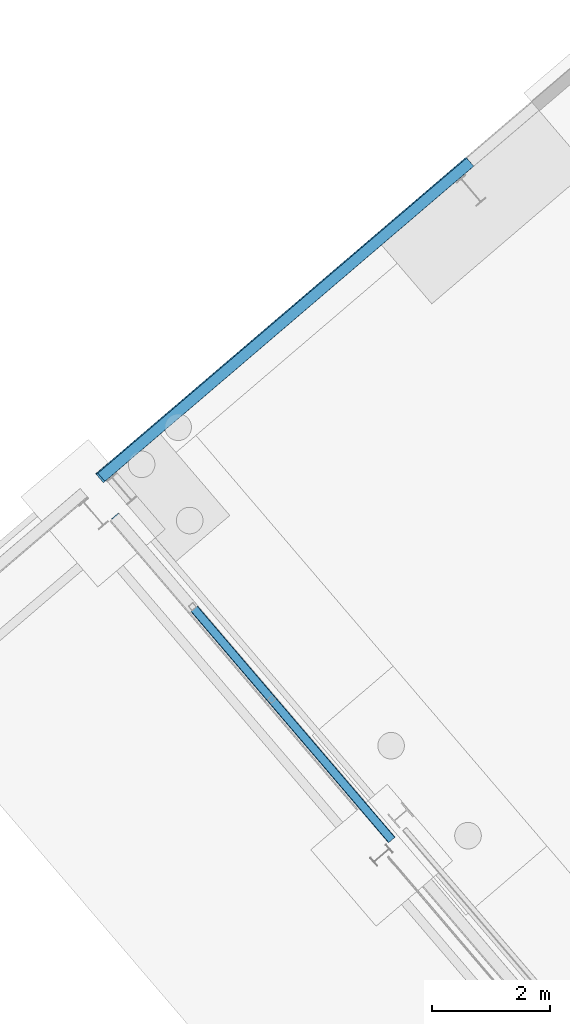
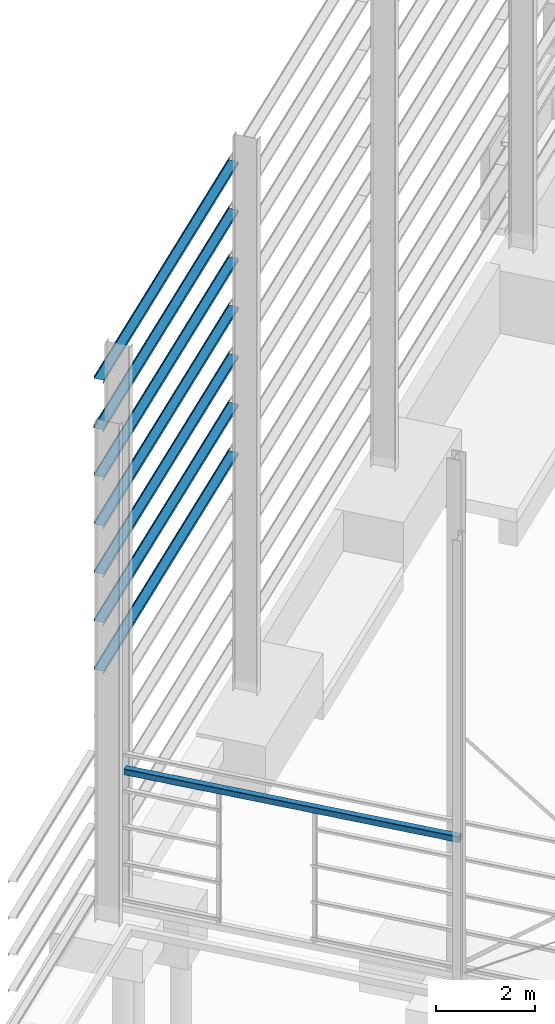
# One storey, part 15 of 41: 8 beams.
"""IFC2X3 building model written with IfcOpenShell, lengths in millimetres."""

from ifc_helpers import new_model, entity, si_unit, converted_unit, derived_unit, direction, frame, frame_2d, origin, place, context, subcontext, project, spatial, polyline, circle_curve, parameter, trimmed, segment, composite_curve, outline, extrude, material, type_object, element, save


model = new_model("IFC2X3")

# Units and contexts
model_context = context("Model", 3, precision=0.01, world=origin(), true_north=direction((6.123031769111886e-17, 1.0)))
body_context = subcontext(model_context, "Body", "Model", "MODEL_VIEW")
ifc_project = project(units=[si_unit("LENGTHUNIT", "METRE", prefix="MILLI"), si_unit("AREAUNIT", "SQUARE_METRE"), si_unit("VOLUMEUNIT", "CUBIC_METRE"), converted_unit("PLANEANGLEUNIT", "DEGREE", entity("IfcRatioMeasure", 0.017453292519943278), si_unit("PLANEANGLEUNIT", "RADIAN"), dimensions=[0, 0, 0, 0, 0, 0, 0]), si_unit("MASSUNIT", "GRAM", prefix="KILO"), derived_unit("MASSDENSITYUNIT", [(si_unit("MASSUNIT", "GRAM", prefix="KILO"), 1), (si_unit("LENGTHUNIT", "METRE"), -3)]), derived_unit("MOMENTOFINERTIAUNIT", [(si_unit("LENGTHUNIT", "METRE"), 4)]), si_unit("TIMEUNIT", "SECOND"), si_unit("FREQUENCYUNIT", "HERTZ"), si_unit("THERMODYNAMICTEMPERATUREUNIT", "DEGREE_CELSIUS"), derived_unit("THERMALTRANSMITTANCEUNIT", [(si_unit("MASSUNIT", "GRAM", prefix="KILO"), 1), (si_unit("THERMODYNAMICTEMPERATUREUNIT", "KELVIN"), -1), (si_unit("TIMEUNIT", "SECOND"), -3)]), derived_unit("VOLUMETRICFLOWRATEUNIT", [(si_unit("LENGTHUNIT", "METRE"), 3), (si_unit("TIMEUNIT", "SECOND"), -1)]), derived_unit("MASSFLOWRATEUNIT", [(si_unit("MASSUNIT", "GRAM", prefix="KILO"), 1), (si_unit("TIMEUNIT", "SECOND"), -1)]), derived_unit("ROTATIONALFREQUENCYUNIT", [(si_unit("TIMEUNIT", "SECOND"), -1)]), si_unit("ELECTRICCURRENTUNIT", "AMPERE"), si_unit("ELECTRICVOLTAGEUNIT", "VOLT"), si_unit("POWERUNIT", "WATT"), si_unit("FORCEUNIT", "NEWTON", prefix="KILO"), si_unit("ILLUMINANCEUNIT", "LUX"), si_unit("LUMINOUSFLUXUNIT", "LUMEN"), si_unit("LUMINOUSINTENSITYUNIT", "CANDELA"), derived_unit("USERDEFINED", [(si_unit("MASSUNIT", "GRAM", prefix="KILO"), -1), (si_unit("LENGTHUNIT", "METRE"), -2), (si_unit("TIMEUNIT", "SECOND"), 3), (si_unit("LUMINOUSFLUXUNIT", "LUMEN"), 1)]), derived_unit("SOUNDPOWERUNIT", [(si_unit("MASSUNIT", "GRAM", prefix="KILO"), 1), (si_unit("LENGTHUNIT", "METRE"), 2), (si_unit("TIMEUNIT", "SECOND"), -3)]), derived_unit("LINEARVELOCITYUNIT", [(si_unit("LENGTHUNIT", "METRE"), 1), (si_unit("TIMEUNIT", "SECOND"), -1)]), si_unit("PRESSUREUNIT", "PASCAL"), derived_unit("USERDEFINED", [(si_unit("LENGTHUNIT", "METRE"), -2), (si_unit("MASSUNIT", "GRAM", prefix="KILO"), 1), (si_unit("TIMEUNIT", "SECOND"), -2)]), derived_unit("LINEARFORCEUNIT", [(si_unit("MASSUNIT", "GRAM", prefix="KILO"), 1), (si_unit("LENGTHUNIT", "METRE"), 1), (si_unit("TIMEUNIT", "SECOND"), -2), (si_unit("LENGTHUNIT", "METRE"), -1)]), derived_unit("PLANARFORCEUNIT", [(si_unit("MASSUNIT", "GRAM", prefix="KILO"), 1), (si_unit("LENGTHUNIT", "METRE"), 1), (si_unit("TIMEUNIT", "SECOND"), -2), (si_unit("LENGTHUNIT", "METRE"), -2)])], contexts=[model_context])

# Site, building, storey
site_placement = place(None, frame((962.4174930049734, -6014.433753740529, 0.0), z_axis=(0.0, 0.0, 1.0), x_axis=(0.7601792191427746, 0.649713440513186, 0.0)))
site = spatial("IfcSite", under=ifc_project, at=site_placement, Name="Default", CompositionType="ELEMENT")
building_placement = place(site_placement, origin())
building = spatial("IfcBuilding", under=site, at=building_placement, CompositionType="ELEMENT")
storey_placement = place(building_placement, origin())
storey = spatial("IfcBuildingStorey", under=building, at=storey_placement, Name="Datum", CompositionType="ELEMENT", Elevation=0.0)

# Beams
ifc_material_1 = material(Name="Metal - Steel - 300 MPa")
beam_type_1 = type_object("IfcBeamType", Name="ADSK_AU_SHS-Square Hollow Sections (AS 1163_C350):150x150x6.0SHS", PredefinedType="NOTDEFINED")
beam_1_placement = place(storey_placement, frame((154112.96020470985, 3073.571917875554, 3275.0), z_axis=(0.0, 0.0, 1.0), x_axis=(0.0, -1.0, 0.0)))
element("IfcBeam", 1, at=beam_1_placement, inside=storey, type_object=beam_type_1, material=ifc_material_1, Name="ADSK_AU_SHS-Square Hollow Sections (AS 1163_C350):150x150x6.0SHS", ObjectType="ADSK_AU_SHS-Square Hollow Sections (AS 1163_C350):150x150x6.0SHS", context=body_context, shape_type="SweptSolid", body=[
    extrude(outline(composite_curve([segment(polyline([(-60.0, -75.0), (60.0, -75.0)]), True, "CONTINUOUS"), segment(trimmed(circle_curve(frame_2d((60.0, -60.0), x_axis=(0.0, 1.0)), 15.0), [parameter(179.99999999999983)], [parameter(269.9999999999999)], True, "PARAMETER"), True, "CONTINUOUS"), segment(polyline([(75.0, -60.0), (75.0, 60.0)]), True, "CONTINUOUS"), segment(trimmed(circle_curve(frame_2d((60.0, 60.0), x_axis=(0.0, 1.0)), 15.0), [parameter(270.00000000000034)], [parameter(3.5622212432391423e-13)], True, "PARAMETER"), True, "CONTINUOUS"), segment(polyline([(60.0, 75.0), (-60.0, 75.0)]), True, "CONTINUOUS"), segment(trimmed(circle_curve(frame_2d((-60.0, 60.0), x_axis=(0.0, 1.0)), 15.0), [parameter(5.088887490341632e-14)], [parameter(90.00000000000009)], True, "PARAMETER"), True, "CONTINUOUS"), segment(polyline([(-75.0, 60.0), (-75.0, -60.0)]), True, "CONTINUOUS"), segment(trimmed(circle_curve(frame_2d((-60.0, -60.0), x_axis=(0.0, 1.0)), 15.0), [parameter(90.00000000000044)], [parameter(180.00000000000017)], True, "PARAMETER"), True, "CONTINUOUS")], self_intersect=False), holes=[composite_curve([segment(trimmed(circle_curve(frame_2d((-60.0, 60.0), x_axis=(0.0, 1.0)), 9.0), [parameter(359.99999999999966)], [parameter(89.99999999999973)], True, "PARAMETER"), False, "CONTINUOUS"), segment(polyline([(-60.0, 69.0), (60.0, 69.0)]), True, "CONTINUOUS"), segment(trimmed(circle_curve(frame_2d((60.0, 60.0), x_axis=(0.0, 1.0)), 9.0), [parameter(269.9999999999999)], [parameter(5.088887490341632e-14)], True, "PARAMETER"), False, "CONTINUOUS"), segment(polyline([(69.0, 60.0), (69.0, -60.0)]), True, "CONTINUOUS"), segment(trimmed(circle_curve(frame_2d((60.0, -60.0), x_axis=(0.0, 1.0)), 9.0), [parameter(179.9999999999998)], [parameter(269.99999999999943)], True, "PARAMETER"), False, "CONTINUOUS"), segment(polyline([(60.0, -69.0), (-60.0, -69.0)]), True, "CONTINUOUS"), segment(trimmed(circle_curve(frame_2d((-60.0, -60.0), x_axis=(0.0, 1.0)), 9.0), [parameter(90.00000000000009)], [parameter(179.99999999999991)], True, "PARAMETER"), False, "CONTINUOUS"), segment(polyline([(-69.0, -60.0), (-69.0, 60.0)]), True, "CONTINUOUS")], self_intersect=False)]), frame((-43.94999999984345, 75.0, 0.0), z_axis=(1.0, 0.0, 0.0), x_axis=(0.0, 1.0, 0.0)), (0.0, 0.0, 1.0), 7203.949999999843),
])
ifc_material_2 = material(Name="Metal - Steel - 345 MPa")
beam_type_2 = type_object("IfcBeamType", Name="ADSK_AU_Light Gauge-Zeds:Z20012", PredefinedType="NOTDEFINED")
beam_2_placement = place(building_placement, frame((154438.96020470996, 3872.0719178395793, 12627.499999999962)))
element("IfcBeam", 2, at=beam_2_placement, inside=storey, type_object=beam_type_2, material=ifc_material_2, Name="ADSK_AU_Light Gauge-Zeds:Z20012", ObjectType="ADSK_AU_Light Gauge-Zeds:Z20012", context=body_context, shape_type="SweptSolid", body=[
    extrude(outline(composite_curve([segment(polyline([(-1.240000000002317, -101.5000000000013), (68.35999999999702, -101.5000000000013)]), True, "CONTINUOUS"), segment(trimmed(circle_curve(frame_2d((68.35999999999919, -98.30000000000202), x_axis=(0.0, -1.0)), 3.199999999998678), [parameter(0.0)], [parameter(90.00000000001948)], True, "PARAMETER"), True, "CONTINUOUS"), segment(polyline([(71.55999999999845, -98.30000000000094), (71.55999999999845, -82.0)]), True, "CONTINUOUS"), segment(polyline([(71.55999999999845, -82.0), (70.35999999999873, -82.0)]), True, "CONTINUOUS"), segment(polyline([(70.35999999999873, -82.0), (70.35999999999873, -98.30000000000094)]), True, "CONTINUOUS"), segment(trimmed(circle_curve(frame_2d((68.35999999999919, -98.30000000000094), x_axis=(1.0, 0.0)), 1.999999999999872), [parameter(269.9999999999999)], [parameter(0.0)], True, "PARAMETER"), False, "CONTINUOUS"), segment(polyline([(68.35999999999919, -100.30000000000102), (-1.2400000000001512, -100.30000000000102)]), True, "CONTINUOUS"), segment(trimmed(circle_curve(frame_2d((-1.240000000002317, -98.30000000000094), x_axis=(0.0, -1.0)), 1.999999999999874), [parameter(269.9999999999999)], [parameter(0.0)], True, "PARAMETER"), False, "CONTINUOUS"), segment(polyline([(-3.240000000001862, -98.30000000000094), (-3.240000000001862, 98.29999999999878)]), True, "CONTINUOUS"), segment(trimmed(circle_curve(frame_2d((-6.440000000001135, 98.29999999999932), x_axis=(1.0, 0.0)), 3.199999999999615), [parameter(0.0)], [parameter(90.00000000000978)], True, "PARAMETER"), True, "CONTINUOUS"), segment(polyline([(-6.440000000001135, 101.49999999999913), (-63.24000000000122, 101.49999999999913)]), True, "CONTINUOUS"), segment(trimmed(circle_curve(frame_2d((-63.24000000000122, 98.29999999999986), x_axis=(0.0, 1.0)), 3.199999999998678), [parameter(0.0)], [parameter(90.00000000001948)], True, "PARAMETER"), True, "CONTINUOUS"), segment(polyline([(-66.44000000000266, 98.29999999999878), (-66.44000000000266, 82.0)]), True, "CONTINUOUS"), segment(polyline([(-66.44000000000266, 82.0), (-65.24000000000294, 82.0)]), True, "CONTINUOUS"), segment(polyline([(-65.24000000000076, 82.0), (-65.24000000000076, 98.29999999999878)]), True, "CONTINUOUS"), segment(trimmed(circle_curve(frame_2d((-63.24000000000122, 98.29999999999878), x_axis=(-1.0, 0.0)), 1.9999999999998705), [parameter(269.9999999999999)], [parameter(0.0)], True, "PARAMETER"), False, "CONTINUOUS"), segment(polyline([(-63.24000000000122, 100.29999999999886), (-6.440000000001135, 100.29999999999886)]), True, "CONTINUOUS"), segment(trimmed(circle_curve(frame_2d((-6.440000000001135, 98.29999999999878), x_axis=(0.0, 1.0)), 1.999999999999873), [parameter(269.9999999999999)], [parameter(0.0)], True, "PARAMETER"), False, "CONTINUOUS"), segment(polyline([(-4.440000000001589, 98.29999999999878), (-4.440000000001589, -98.30000000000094)]), True, "CONTINUOUS"), segment(trimmed(circle_curve(frame_2d((-1.240000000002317, -98.30000000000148), x_axis=(-1.0, 0.0)), 3.1999999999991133), [parameter(0.0)], [parameter(90.00000000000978)], True, "PARAMETER"), True, "CONTINUOUS")], self_intersect=False)), frame((0.32499999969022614, -101.50000000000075, -4.440000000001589), z_axis=(1.0, 0.0, 0.0), x_axis=(0.0, 0.0, -1.0)), (0.0, 0.0, 1.0), 8199.000000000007),
])
beam_3_placement = place(building_placement, frame((154398.61020470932, 3872.0719178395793, 11427.499999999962)))
element("IfcBeam", 3, at=beam_3_placement, inside=storey, type_object=beam_type_2, material=ifc_material_2, Name="ADSK_AU_Light Gauge-Zeds:Z20012", ObjectType="ADSK_AU_Light Gauge-Zeds:Z20012", context=body_context, shape_type="SweptSolid", body=[
    extrude(outline(composite_curve([segment(polyline([(-1.240000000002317, -101.5000000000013), (68.35999999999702, -101.5000000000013)]), True, "CONTINUOUS"), segment(trimmed(circle_curve(frame_2d((68.35999999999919, -98.30000000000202), x_axis=(0.0, -1.0)), 3.199999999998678), [parameter(0.0)], [parameter(90.00000000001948)], True, "PARAMETER"), True, "CONTINUOUS"), segment(polyline([(71.55999999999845, -98.30000000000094), (71.55999999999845, -82.0)]), True, "CONTINUOUS"), segment(polyline([(71.55999999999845, -82.0), (70.35999999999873, -82.0)]), True, "CONTINUOUS"), segment(polyline([(70.35999999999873, -82.0), (70.35999999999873, -98.30000000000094)]), True, "CONTINUOUS"), segment(trimmed(circle_curve(frame_2d((68.35999999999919, -98.30000000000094), x_axis=(1.0, 0.0)), 1.999999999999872), [parameter(269.9999999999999)], [parameter(0.0)], True, "PARAMETER"), False, "CONTINUOUS"), segment(polyline([(68.35999999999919, -100.30000000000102), (-1.2400000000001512, -100.30000000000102)]), True, "CONTINUOUS"), segment(trimmed(circle_curve(frame_2d((-1.240000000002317, -98.30000000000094), x_axis=(0.0, -1.0)), 1.999999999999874), [parameter(269.9999999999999)], [parameter(0.0)], True, "PARAMETER"), False, "CONTINUOUS"), segment(polyline([(-3.240000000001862, -98.30000000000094), (-3.240000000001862, 98.29999999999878)]), True, "CONTINUOUS"), segment(trimmed(circle_curve(frame_2d((-6.440000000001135, 98.29999999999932), x_axis=(1.0, 0.0)), 3.199999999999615), [parameter(0.0)], [parameter(90.00000000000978)], True, "PARAMETER"), True, "CONTINUOUS"), segment(polyline([(-6.440000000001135, 101.49999999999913), (-63.24000000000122, 101.49999999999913)]), True, "CONTINUOUS"), segment(trimmed(circle_curve(frame_2d((-63.24000000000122, 98.29999999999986), x_axis=(0.0, 1.0)), 3.199999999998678), [parameter(0.0)], [parameter(90.00000000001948)], True, "PARAMETER"), True, "CONTINUOUS"), segment(polyline([(-66.44000000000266, 98.29999999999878), (-66.44000000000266, 82.0)]), True, "CONTINUOUS"), segment(polyline([(-66.44000000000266, 82.0), (-65.24000000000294, 82.0)]), True, "CONTINUOUS"), segment(polyline([(-65.24000000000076, 82.0), (-65.24000000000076, 98.29999999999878)]), True, "CONTINUOUS"), segment(trimmed(circle_curve(frame_2d((-63.24000000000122, 98.29999999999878), x_axis=(-1.0, 0.0)), 1.9999999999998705), [parameter(269.9999999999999)], [parameter(0.0)], True, "PARAMETER"), False, "CONTINUOUS"), segment(polyline([(-63.24000000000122, 100.29999999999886), (-6.440000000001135, 100.29999999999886)]), True, "CONTINUOUS"), segment(trimmed(circle_curve(frame_2d((-6.440000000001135, 98.29999999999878), x_axis=(0.0, 1.0)), 1.999999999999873), [parameter(269.9999999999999)], [parameter(0.0)], True, "PARAMETER"), False, "CONTINUOUS"), segment(polyline([(-4.440000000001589, 98.29999999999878), (-4.440000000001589, -98.30000000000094)]), True, "CONTINUOUS"), segment(trimmed(circle_curve(frame_2d((-1.240000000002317, -98.30000000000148), x_axis=(-1.0, 0.0)), 3.1999999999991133), [parameter(0.0)], [parameter(90.00000000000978)], True, "PARAMETER"), True, "CONTINUOUS")], self_intersect=False)), frame((6.44999999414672, -101.50000000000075, -4.440000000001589), z_axis=(1.0, 0.0, 0.0), x_axis=(0.0, 0.0, -1.0)), (0.0, 0.0, 1.0), 8233.550000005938),
])
beam_4_placement = place(building_placement, frame((154438.96020470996, 3872.0719178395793, 10227.499999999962)))
element("IfcBeam", 4, at=beam_4_placement, inside=storey, type_object=beam_type_2, material=ifc_material_2, Name="ADSK_AU_Light Gauge-Zeds:Z20012", ObjectType="ADSK_AU_Light Gauge-Zeds:Z20012", context=body_context, shape_type="SweptSolid", body=[
    extrude(outline(composite_curve([segment(polyline([(-1.240000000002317, -101.5000000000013), (68.35999999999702, -101.5000000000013)]), True, "CONTINUOUS"), segment(trimmed(circle_curve(frame_2d((68.35999999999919, -98.30000000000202), x_axis=(0.0, -1.0)), 3.199999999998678), [parameter(0.0)], [parameter(90.00000000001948)], True, "PARAMETER"), True, "CONTINUOUS"), segment(polyline([(71.55999999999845, -98.30000000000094), (71.55999999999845, -82.0)]), True, "CONTINUOUS"), segment(polyline([(71.55999999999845, -82.0), (70.35999999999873, -82.0)]), True, "CONTINUOUS"), segment(polyline([(70.35999999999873, -82.0), (70.35999999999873, -98.30000000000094)]), True, "CONTINUOUS"), segment(trimmed(circle_curve(frame_2d((68.35999999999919, -98.30000000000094), x_axis=(1.0, 0.0)), 1.999999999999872), [parameter(269.9999999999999)], [parameter(0.0)], True, "PARAMETER"), False, "CONTINUOUS"), segment(polyline([(68.35999999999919, -100.30000000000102), (-1.2400000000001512, -100.30000000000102)]), True, "CONTINUOUS"), segment(trimmed(circle_curve(frame_2d((-1.240000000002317, -98.30000000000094), x_axis=(0.0, -1.0)), 1.999999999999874), [parameter(269.9999999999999)], [parameter(0.0)], True, "PARAMETER"), False, "CONTINUOUS"), segment(polyline([(-3.240000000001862, -98.30000000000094), (-3.240000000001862, 98.29999999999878)]), True, "CONTINUOUS"), segment(trimmed(circle_curve(frame_2d((-6.440000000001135, 98.29999999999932), x_axis=(1.0, 0.0)), 3.199999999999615), [parameter(0.0)], [parameter(90.00000000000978)], True, "PARAMETER"), True, "CONTINUOUS"), segment(polyline([(-6.440000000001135, 101.49999999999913), (-63.24000000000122, 101.49999999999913)]), True, "CONTINUOUS"), segment(trimmed(circle_curve(frame_2d((-63.24000000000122, 98.29999999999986), x_axis=(0.0, 1.0)), 3.199999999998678), [parameter(0.0)], [parameter(90.00000000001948)], True, "PARAMETER"), True, "CONTINUOUS"), segment(polyline([(-66.44000000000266, 98.29999999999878), (-66.44000000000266, 82.0)]), True, "CONTINUOUS"), segment(polyline([(-66.44000000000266, 82.0), (-65.24000000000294, 82.0)]), True, "CONTINUOUS"), segment(polyline([(-65.24000000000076, 82.0), (-65.24000000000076, 98.29999999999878)]), True, "CONTINUOUS"), segment(trimmed(circle_curve(frame_2d((-63.24000000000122, 98.29999999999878), x_axis=(-1.0, 0.0)), 1.9999999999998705), [parameter(269.9999999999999)], [parameter(0.0)], True, "PARAMETER"), False, "CONTINUOUS"), segment(polyline([(-63.24000000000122, 100.29999999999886), (-6.440000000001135, 100.29999999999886)]), True, "CONTINUOUS"), segment(trimmed(circle_curve(frame_2d((-6.440000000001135, 98.29999999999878), x_axis=(0.0, 1.0)), 1.999999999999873), [parameter(269.9999999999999)], [parameter(0.0)], True, "PARAMETER"), False, "CONTINUOUS"), segment(polyline([(-4.440000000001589, 98.29999999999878), (-4.440000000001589, -98.30000000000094)]), True, "CONTINUOUS"), segment(trimmed(circle_curve(frame_2d((-1.240000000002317, -98.30000000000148), x_axis=(-1.0, 0.0)), 3.1999999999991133), [parameter(0.0)], [parameter(90.00000000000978)], True, "PARAMETER"), True, "CONTINUOUS")], self_intersect=False)), frame((0.32499999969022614, -101.50000000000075, -4.440000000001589), z_axis=(1.0, 0.0, 0.0), x_axis=(0.0, 0.0, -1.0)), (0.0, 0.0, 1.0), 8199.000000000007),
])
beam_5_placement = place(building_placement, frame((154438.96020470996, 3872.0719178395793, 9027.499999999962)))
element("IfcBeam", 5, at=beam_5_placement, inside=storey, type_object=beam_type_2, material=ifc_material_2, Name="ADSK_AU_Light Gauge-Zeds:Z20012", ObjectType="ADSK_AU_Light Gauge-Zeds:Z20012", context=body_context, shape_type="SweptSolid", body=[
    extrude(outline(composite_curve([segment(polyline([(-1.2399999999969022, -101.5000000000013), (68.36000000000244, -101.5000000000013)]), True, "CONTINUOUS"), segment(trimmed(circle_curve(frame_2d((68.36000000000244, -98.3000000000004), x_axis=(0.0, -1.0)), 3.2000000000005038), [parameter(0.0)], [parameter(89.9999999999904)], True, "PARAMETER"), True, "CONTINUOUS"), segment(polyline([(71.56000000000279, -98.30000000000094), (71.56000000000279, -82.0)]), True, "CONTINUOUS"), segment(polyline([(71.56000000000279, -82.0), (70.36000000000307, -82.0)]), True, "CONTINUOUS"), segment(polyline([(70.36000000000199, -82.0), (70.36000000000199, -98.30000000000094)]), True, "CONTINUOUS"), segment(trimmed(circle_curve(frame_2d((68.36000000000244, -98.30000000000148), x_axis=(1.0, 0.0)), 1.9999999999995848), [parameter(269.99999999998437)], [parameter(0.0)], True, "PARAMETER"), False, "CONTINUOUS"), segment(polyline([(68.36000000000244, -100.30000000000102), (-1.2399999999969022, -100.30000000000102)]), True, "CONTINUOUS"), segment(trimmed(circle_curve(frame_2d((-1.2399999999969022, -98.30000000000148), x_axis=(0.0, -1.0)), 1.999999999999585), [parameter(269.99999999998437)], [parameter(0.0)], True, "PARAMETER"), False, "CONTINUOUS"), segment(polyline([(-3.23999999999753, -98.30000000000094), (-3.23999999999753, 98.29999999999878)]), True, "CONTINUOUS"), segment(trimmed(circle_curve(frame_2d((-6.439999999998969, 98.2999999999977), x_axis=(1.0, 0.0)), 3.2000000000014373), [parameter(0.0)], [parameter(89.99999999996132)], True, "PARAMETER"), True, "CONTINUOUS"), segment(polyline([(-6.439999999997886, 101.49999999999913), (-63.23999999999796, 101.49999999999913)]), True, "CONTINUOUS"), segment(trimmed(circle_curve(frame_2d((-63.23999999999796, 98.29999999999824), x_axis=(0.0, 1.0)), 3.2000000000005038), [parameter(0.0)], [parameter(89.9999999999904)], True, "PARAMETER"), True, "CONTINUOUS"), segment(polyline([(-66.43999999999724, 98.29999999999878), (-66.43999999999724, 82.0)]), True, "CONTINUOUS"), segment(polyline([(-66.43999999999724, 82.0), (-65.23999999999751, 82.0)]), True, "CONTINUOUS"), segment(polyline([(-65.23999999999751, 82.0), (-65.23999999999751, 98.29999999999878)]), True, "CONTINUOUS"), segment(trimmed(circle_curve(frame_2d((-63.23999999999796, 98.29999999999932), x_axis=(-1.0, 0.0)), 1.9999999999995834), [parameter(269.99999999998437)], [parameter(0.0)], True, "PARAMETER"), False, "CONTINUOUS"), segment(polyline([(-63.23999999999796, 100.29999999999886), (-6.439999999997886, 100.29999999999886)]), True, "CONTINUOUS"), segment(trimmed(circle_curve(frame_2d((-6.439999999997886, 98.29999999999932), x_axis=(0.0, 1.0)), 1.9999999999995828), [parameter(269.99999999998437)], [parameter(0.0)], True, "PARAMETER"), False, "CONTINUOUS"), segment(polyline([(-4.439999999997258, 98.29999999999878), (-4.439999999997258, -98.30000000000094)]), True, "CONTINUOUS"), segment(trimmed(circle_curve(frame_2d((-1.2399999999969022, -98.29999999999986), x_axis=(-1.0, 0.0)), 3.2000000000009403), [parameter(0.0)], [parameter(89.9999999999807)], True, "PARAMETER"), True, "CONTINUOUS")], self_intersect=False)), frame((0.32499999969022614, -101.50000000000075, -4.439999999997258), z_axis=(1.0, 0.0, 0.0), x_axis=(0.0, 0.0, -1.0)), (0.0, 0.0, 1.0), 8199.000000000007),
])
beam_6_placement = place(building_placement, frame((154438.96020470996, 3872.0719178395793, 7827.499999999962)))
element("IfcBeam", 6, at=beam_6_placement, inside=storey, type_object=beam_type_2, material=ifc_material_2, Name="ADSK_AU_Light Gauge-Zeds:Z20012", ObjectType="ADSK_AU_Light Gauge-Zeds:Z20012", context=body_context, shape_type="SweptSolid", body=[
    extrude(outline(composite_curve([segment(polyline([(-1.2399999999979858, -101.5000000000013), (68.36000000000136, -101.5000000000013)]), True, "CONTINUOUS"), segment(trimmed(circle_curve(frame_2d((68.36000000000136, -98.3000000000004), x_axis=(0.0, -1.0)), 3.2000000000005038), [parameter(0.0)], [parameter(89.9999999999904)], True, "PARAMETER"), True, "CONTINUOUS"), segment(polyline([(71.56000000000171, -98.30000000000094), (71.56000000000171, -82.0)]), True, "CONTINUOUS"), segment(polyline([(71.56000000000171, -82.0), (70.36000000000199, -82.0)]), True, "CONTINUOUS"), segment(polyline([(70.36000000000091, -82.0), (70.36000000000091, -98.30000000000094)]), True, "CONTINUOUS"), segment(trimmed(circle_curve(frame_2d((68.36000000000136, -98.30000000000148), x_axis=(1.0, 0.0)), 1.9999999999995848), [parameter(269.99999999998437)], [parameter(0.0)], True, "PARAMETER"), False, "CONTINUOUS"), segment(polyline([(68.36000000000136, -100.30000000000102), (-1.2399999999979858, -100.30000000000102)]), True, "CONTINUOUS"), segment(trimmed(circle_curve(frame_2d((-1.2399999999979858, -98.30000000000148), x_axis=(0.0, -1.0)), 1.999999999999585), [parameter(269.99999999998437)], [parameter(0.0)], True, "PARAMETER"), False, "CONTINUOUS"), segment(polyline([(-3.2399999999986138, -98.30000000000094), (-3.2399999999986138, 98.29999999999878)]), True, "CONTINUOUS"), segment(trimmed(circle_curve(frame_2d((-6.440000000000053, 98.2999999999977), x_axis=(1.0, 0.0)), 3.2000000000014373), [parameter(0.0)], [parameter(89.99999999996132)], True, "PARAMETER"), True, "CONTINUOUS"), segment(polyline([(-6.439999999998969, 101.49999999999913), (-63.23999999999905, 101.49999999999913)]), True, "CONTINUOUS"), segment(trimmed(circle_curve(frame_2d((-63.23999999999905, 98.29999999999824), x_axis=(0.0, 1.0)), 3.2000000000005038), [parameter(0.0)], [parameter(89.9999999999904)], True, "PARAMETER"), True, "CONTINUOUS"), segment(polyline([(-66.43999999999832, 98.29999999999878), (-66.43999999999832, 82.0)]), True, "CONTINUOUS"), segment(polyline([(-66.43999999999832, 82.0), (-65.23999999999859, 82.0)]), True, "CONTINUOUS"), segment(polyline([(-65.23999999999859, 82.0), (-65.23999999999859, 98.29999999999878)]), True, "CONTINUOUS"), segment(trimmed(circle_curve(frame_2d((-63.23999999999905, 98.29999999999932), x_axis=(-1.0, 0.0)), 1.9999999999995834), [parameter(269.99999999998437)], [parameter(0.0)], True, "PARAMETER"), False, "CONTINUOUS"), segment(polyline([(-63.23999999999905, 100.29999999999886), (-6.439999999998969, 100.29999999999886)]), True, "CONTINUOUS"), segment(trimmed(circle_curve(frame_2d((-6.439999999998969, 98.29999999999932), x_axis=(0.0, 1.0)), 1.9999999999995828), [parameter(269.99999999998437)], [parameter(0.0)], True, "PARAMETER"), False, "CONTINUOUS"), segment(polyline([(-4.439999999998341, 98.29999999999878), (-4.439999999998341, -98.30000000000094)]), True, "CONTINUOUS"), segment(trimmed(circle_curve(frame_2d((-1.2399999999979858, -98.29999999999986), x_axis=(-1.0, 0.0)), 3.2000000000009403), [parameter(0.0)], [parameter(89.9999999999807)], True, "PARAMETER"), True, "CONTINUOUS")], self_intersect=False)), frame((0.32499999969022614, -101.50000000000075, -4.439999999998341), z_axis=(1.0, 0.0, 0.0), x_axis=(0.0, 0.0, -1.0)), (0.0, 0.0, 1.0), 8199.000000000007),
])
beam_7_placement = place(building_placement, frame((154438.96020470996, 3872.0719178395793, 6627.499999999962)))
element("IfcBeam", 7, at=beam_7_placement, inside=storey, type_object=beam_type_2, material=ifc_material_2, Name="ADSK_AU_Light Gauge-Zeds:Z20012", ObjectType="ADSK_AU_Light Gauge-Zeds:Z20012", context=body_context, shape_type="SweptSolid", body=[
    extrude(outline(composite_curve([segment(polyline([(-1.2400000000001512, -101.5000000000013), (68.35999999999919, -101.5000000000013)]), True, "CONTINUOUS"), segment(trimmed(circle_curve(frame_2d((68.35999999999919, -98.3000000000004), x_axis=(0.0, -1.0)), 3.2000000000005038), [parameter(0.0)], [parameter(89.9999999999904)], True, "PARAMETER"), True, "CONTINUOUS"), segment(polyline([(71.55999999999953, -98.30000000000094), (71.55999999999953, -82.0)]), True, "CONTINUOUS"), segment(polyline([(71.55999999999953, -82.0), (70.35999999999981, -82.0)]), True, "CONTINUOUS"), segment(polyline([(70.35999999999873, -82.0), (70.35999999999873, -98.30000000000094)]), True, "CONTINUOUS"), segment(trimmed(circle_curve(frame_2d((68.35999999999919, -98.30000000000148), x_axis=(1.0, 0.0)), 1.9999999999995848), [parameter(269.99999999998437)], [parameter(0.0)], True, "PARAMETER"), False, "CONTINUOUS"), segment(polyline([(68.35999999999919, -100.30000000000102), (-1.2400000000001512, -100.30000000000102)]), True, "CONTINUOUS"), segment(trimmed(circle_curve(frame_2d((-1.2400000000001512, -98.30000000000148), x_axis=(0.0, -1.0)), 1.999999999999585), [parameter(269.99999999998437)], [parameter(0.0)], True, "PARAMETER"), False, "CONTINUOUS"), segment(polyline([(-3.240000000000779, -98.30000000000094), (-3.240000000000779, 98.29999999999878)]), True, "CONTINUOUS"), segment(trimmed(circle_curve(frame_2d((-6.440000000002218, 98.2999999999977), x_axis=(1.0, 0.0)), 3.2000000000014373), [parameter(0.0)], [parameter(89.99999999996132)], True, "PARAMETER"), True, "CONTINUOUS"), segment(polyline([(-6.440000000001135, 101.49999999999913), (-63.24000000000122, 101.49999999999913)]), True, "CONTINUOUS"), segment(trimmed(circle_curve(frame_2d((-63.24000000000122, 98.29999999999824), x_axis=(0.0, 1.0)), 3.2000000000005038), [parameter(0.0)], [parameter(89.9999999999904)], True, "PARAMETER"), True, "CONTINUOUS"), segment(polyline([(-66.4400000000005, 98.29999999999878), (-66.4400000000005, 82.0)]), True, "CONTINUOUS"), segment(polyline([(-66.4400000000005, 82.0), (-65.24000000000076, 82.0)]), True, "CONTINUOUS"), segment(polyline([(-65.24000000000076, 82.0), (-65.24000000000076, 98.29999999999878)]), True, "CONTINUOUS"), segment(trimmed(circle_curve(frame_2d((-63.24000000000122, 98.29999999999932), x_axis=(-1.0, 0.0)), 1.9999999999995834), [parameter(269.99999999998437)], [parameter(0.0)], True, "PARAMETER"), False, "CONTINUOUS"), segment(polyline([(-63.24000000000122, 100.29999999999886), (-6.440000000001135, 100.29999999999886)]), True, "CONTINUOUS"), segment(trimmed(circle_curve(frame_2d((-6.440000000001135, 98.29999999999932), x_axis=(0.0, 1.0)), 1.9999999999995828), [parameter(269.99999999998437)], [parameter(0.0)], True, "PARAMETER"), False, "CONTINUOUS"), segment(polyline([(-4.440000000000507, 98.29999999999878), (-4.440000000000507, -98.30000000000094)]), True, "CONTINUOUS"), segment(trimmed(circle_curve(frame_2d((-1.2400000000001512, -98.29999999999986), x_axis=(-1.0, 0.0)), 3.2000000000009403), [parameter(0.0)], [parameter(89.9999999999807)], True, "PARAMETER"), True, "CONTINUOUS")], self_intersect=False)), frame((0.32499999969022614, -101.50000000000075, -4.440000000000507), z_axis=(1.0, 0.0, 0.0), x_axis=(0.0, 0.0, -1.0)), (0.0, 0.0, 1.0), 8199.000000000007),
])
beam_8_placement = place(building_placement, frame((154438.96020470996, 3872.0719178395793, 5427.499999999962)))
element("IfcBeam", 8, at=beam_8_placement, inside=storey, type_object=beam_type_2, material=ifc_material_2, Name="ADSK_AU_Light Gauge-Zeds:Z20012", ObjectType="ADSK_AU_Light Gauge-Zeds:Z20012", context=body_context, shape_type="SweptSolid", body=[
    extrude(outline(composite_curve([segment(polyline([(-1.2399999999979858, -101.5000000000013), (68.36000000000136, -101.5000000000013)]), True, "CONTINUOUS"), segment(trimmed(circle_curve(frame_2d((68.36000000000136, -98.3000000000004), x_axis=(0.0, -1.0)), 3.2000000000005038), [parameter(0.0)], [parameter(89.9999999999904)], True, "PARAMETER"), True, "CONTINUOUS"), segment(polyline([(71.56000000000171, -98.30000000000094), (71.56000000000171, -82.0)]), True, "CONTINUOUS"), segment(polyline([(71.56000000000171, -82.0), (70.36000000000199, -82.0)]), True, "CONTINUOUS"), segment(polyline([(70.36000000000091, -82.0), (70.36000000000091, -98.30000000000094)]), True, "CONTINUOUS"), segment(trimmed(circle_curve(frame_2d((68.36000000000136, -98.30000000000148), x_axis=(1.0, 0.0)), 1.9999999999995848), [parameter(269.99999999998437)], [parameter(0.0)], True, "PARAMETER"), False, "CONTINUOUS"), segment(polyline([(68.36000000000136, -100.30000000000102), (-1.2399999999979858, -100.30000000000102)]), True, "CONTINUOUS"), segment(trimmed(circle_curve(frame_2d((-1.2399999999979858, -98.30000000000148), x_axis=(0.0, -1.0)), 1.999999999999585), [parameter(269.99999999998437)], [parameter(0.0)], True, "PARAMETER"), False, "CONTINUOUS"), segment(polyline([(-3.2399999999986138, -98.30000000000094), (-3.2399999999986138, 98.29999999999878)]), True, "CONTINUOUS"), segment(trimmed(circle_curve(frame_2d((-6.440000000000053, 98.2999999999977), x_axis=(1.0, 0.0)), 3.2000000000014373), [parameter(0.0)], [parameter(89.99999999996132)], True, "PARAMETER"), True, "CONTINUOUS"), segment(polyline([(-6.439999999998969, 101.49999999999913), (-63.23999999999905, 101.49999999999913)]), True, "CONTINUOUS"), segment(trimmed(circle_curve(frame_2d((-63.23999999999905, 98.29999999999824), x_axis=(0.0, 1.0)), 3.2000000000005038), [parameter(0.0)], [parameter(89.9999999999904)], True, "PARAMETER"), True, "CONTINUOUS"), segment(polyline([(-66.43999999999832, 98.29999999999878), (-66.43999999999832, 82.0)]), True, "CONTINUOUS"), segment(polyline([(-66.43999999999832, 82.0), (-65.23999999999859, 82.0)]), True, "CONTINUOUS"), segment(polyline([(-65.23999999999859, 82.0), (-65.23999999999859, 98.29999999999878)]), True, "CONTINUOUS"), segment(trimmed(circle_curve(frame_2d((-63.23999999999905, 98.29999999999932), x_axis=(-1.0, 0.0)), 1.9999999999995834), [parameter(269.99999999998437)], [parameter(0.0)], True, "PARAMETER"), False, "CONTINUOUS"), segment(polyline([(-63.23999999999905, 100.29999999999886), (-6.439999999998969, 100.29999999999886)]), True, "CONTINUOUS"), segment(trimmed(circle_curve(frame_2d((-6.439999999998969, 98.29999999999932), x_axis=(0.0, 1.0)), 1.9999999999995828), [parameter(269.99999999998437)], [parameter(0.0)], True, "PARAMETER"), False, "CONTINUOUS"), segment(polyline([(-4.439999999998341, 98.29999999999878), (-4.439999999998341, -98.30000000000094)]), True, "CONTINUOUS"), segment(trimmed(circle_curve(frame_2d((-1.2399999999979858, -98.29999999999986), x_axis=(-1.0, 0.0)), 3.2000000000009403), [parameter(0.0)], [parameter(89.9999999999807)], True, "PARAMETER"), True, "CONTINUOUS")], self_intersect=False)), frame((0.32499999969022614, -101.50000000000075, -4.439999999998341), z_axis=(1.0, 0.0, 0.0), x_axis=(0.0, 0.0, -1.0)), (0.0, 0.0, 1.0), 8199.000000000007),
])

save(model, "model.ifc")
